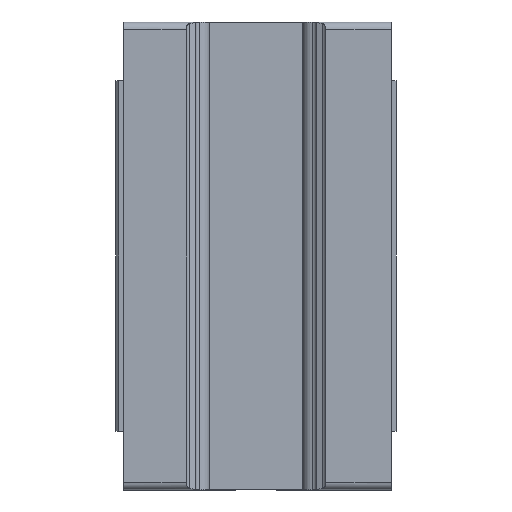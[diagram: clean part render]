
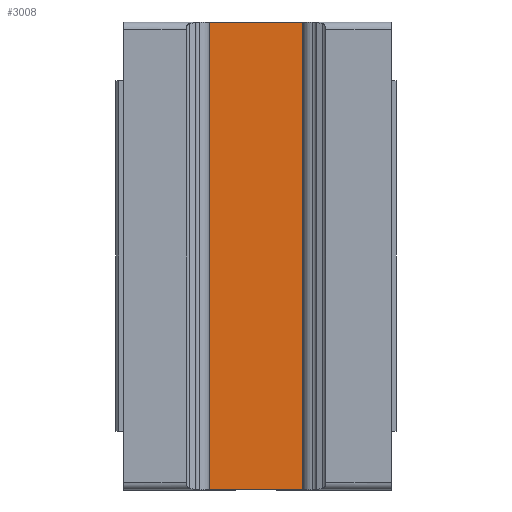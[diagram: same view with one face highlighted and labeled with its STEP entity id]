
A CAD part, front view. The second image highlights one B-rep face of the part: STEP entity #3008.
In plain terms, the highlighted planar face has unit normal (0, -1, 0).
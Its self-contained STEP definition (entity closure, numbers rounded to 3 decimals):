
#483 = VERTEX_POINT ( 'NONE', #4095 ) ;
#485 = EDGE_CURVE ( 'NONE', #483, #486, #3748, .T. ) ;
#486 = VERTEX_POINT ( 'NONE', #3974 ) ;
#2853 = ORIENTED_EDGE ( 'NONE', *, *, #12292, .F. ) ;
#3004 = EDGE_CURVE ( 'NONE', #12293, #483, #7723, .T. ) ;
#3008 = ADVANCED_FACE ( 'NONE', ( #7719 ), #7718, .F. ) ;
#3009 = EDGE_LOOP ( 'NONE', ( #3010, #3012, #3013, #2853 ) ) ;
#3010 = ORIENTED_EDGE ( 'NONE', *, *, #3011, .T. ) ;
#3011 = EDGE_CURVE ( 'NONE', #12098, #486, #7713, .T. ) ;
#3012 = ORIENTED_EDGE ( 'NONE', *, *, #485, .F. ) ;
#3013 = ORIENTED_EDGE ( 'NONE', *, *, #3004, .F. ) ;
#3747 = CARTESIAN_POINT ( 'NONE',  ( -9.2, 9., 70.05 ) ) ;
#3748 = LINE ( 'NONE', #3747, #3989 ) ;
#3974 = CARTESIAN_POINT ( 'NONE',  ( 8.834, 9., 70.05 ) ) ;
#3988 = DIRECTION ( 'NONE',  ( 1., 0., 0. ) ) ;
#3989 = VECTOR ( 'NONE', #3988, 1000. ) ;
#4095 = CARTESIAN_POINT ( 'NONE',  ( -8.834, 9., 70.05 ) ) ;
#6648 = CARTESIAN_POINT ( 'NONE',  ( 8.834, 9., -10.05 ) ) ;
#7181 = CARTESIAN_POINT ( 'NONE',  ( -8.834, 9., -10.05 ) ) ;
#7182 = DIRECTION ( 'NONE',  ( -1., 0., 0. ) ) ;
#7183 = VECTOR ( 'NONE', #7182, 1000. ) ;
#7184 = CARTESIAN_POINT ( 'NONE',  ( -9.2, 9., -10.05 ) ) ;
#7185 = LINE ( 'NONE', #7184, #7183 ) ;
#7710 = DIRECTION ( 'NONE',  ( 0., 0., 1. ) ) ;
#7711 = VECTOR ( 'NONE', #7710, 1000. ) ;
#7712 = CARTESIAN_POINT ( 'NONE',  ( 8.834, 9., -10.1 ) ) ;
#7713 = LINE ( 'NONE', #7712, #7711 ) ;
#7714 = DIRECTION ( 'NONE',  ( 0., 0., 1. ) ) ;
#7715 = DIRECTION ( 'NONE',  ( 0., 1., 0. ) ) ;
#7716 = CARTESIAN_POINT ( 'NONE',  ( 8.834, 9., -10.1 ) ) ;
#7717 = AXIS2_PLACEMENT_3D ( 'NONE', #7716, #7715, #7714 ) ;
#7718 = PLANE ( 'NONE',  #7717 ) ;
#7719 = FACE_OUTER_BOUND ( 'NONE', #3009, .T. ) ;
#7720 = DIRECTION ( 'NONE',  ( 0., 0., 1. ) ) ;
#7721 = VECTOR ( 'NONE', #7720, 1000. ) ;
#7722 = CARTESIAN_POINT ( 'NONE',  ( -8.834, 9., -10.1 ) ) ;
#7723 = LINE ( 'NONE', #7722, #7721 ) ;
#12098 = VERTEX_POINT ( 'NONE', #6648 ) ;
#12292 = EDGE_CURVE ( 'NONE', #12098, #12293, #7185, .T. ) ;
#12293 = VERTEX_POINT ( 'NONE', #7181 ) ;
